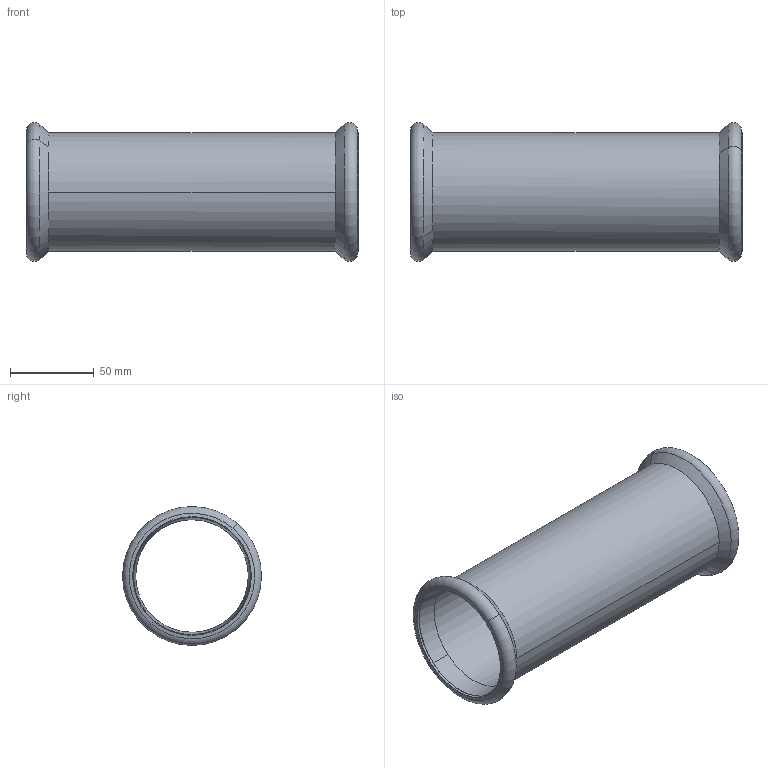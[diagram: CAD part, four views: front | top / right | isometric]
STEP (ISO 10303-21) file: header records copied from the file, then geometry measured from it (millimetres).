
FILE_DESCRIPTION(('CoCreate Modeling STEP Export'),'2;1');
FILE_NAME('C1403 67x67.stp','2014-10-23T14:34:23',(''),(''),'CoCreate Modeling STEP processor for AP214 (Solid Model)','CoCreate Modeling 17.00A 17-Jun-2010 (C) Parametric Technology GmbH','');
FILE_SCHEMA(('AUTOMOTIVE_DESIGN { 1 0 10303 214 1 1 1 1 }'));
Length unit declared in the file: millimetre
Products named in the file (1): Overschuif_67mm
Bounding box: 198.45 x 82.91 x 82.91 mm (x, y, z)
Volume: 99024 mm3; surface area: 89909.3 mm2
Topology: 1 solids, 1 shells, 32 faces, 86 edges, 54 vertices
Faces by surface type: cone 24, cylinder 4, torus 4
Entity records: 784 total; most frequent: ORIENTED_EDGE 172, CARTESIAN_POINT 119, DIRECTION 102, EDGE_CURVE 86, VERTEX_POINT 54, AXIS2_PLACEMENT_3D 37, EDGE_LOOP 32, FACE_OUTER_BOUND 32
